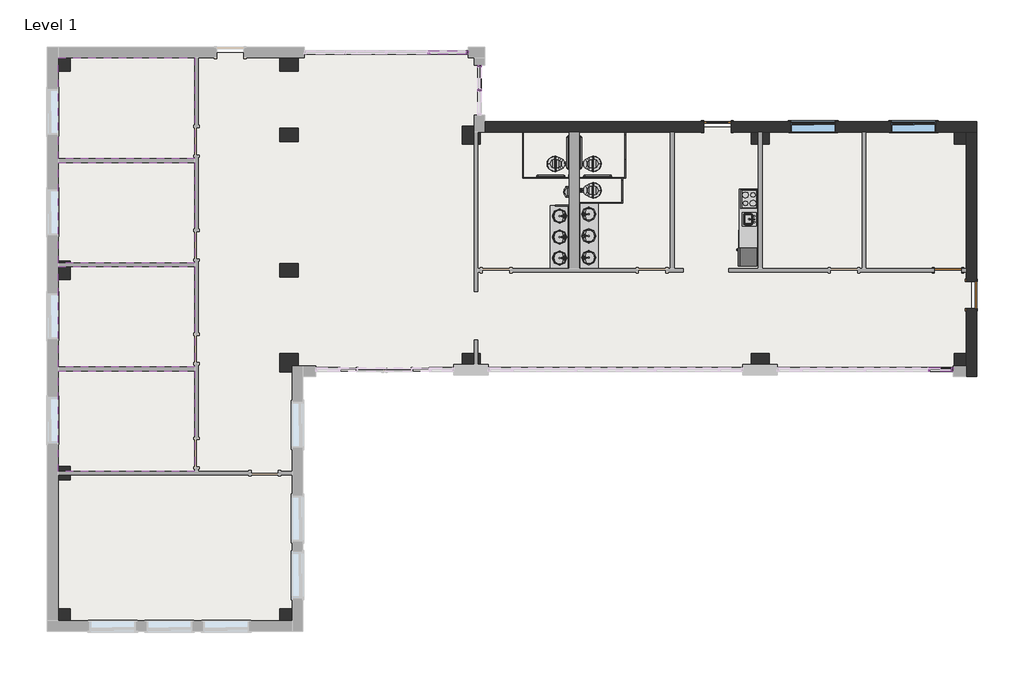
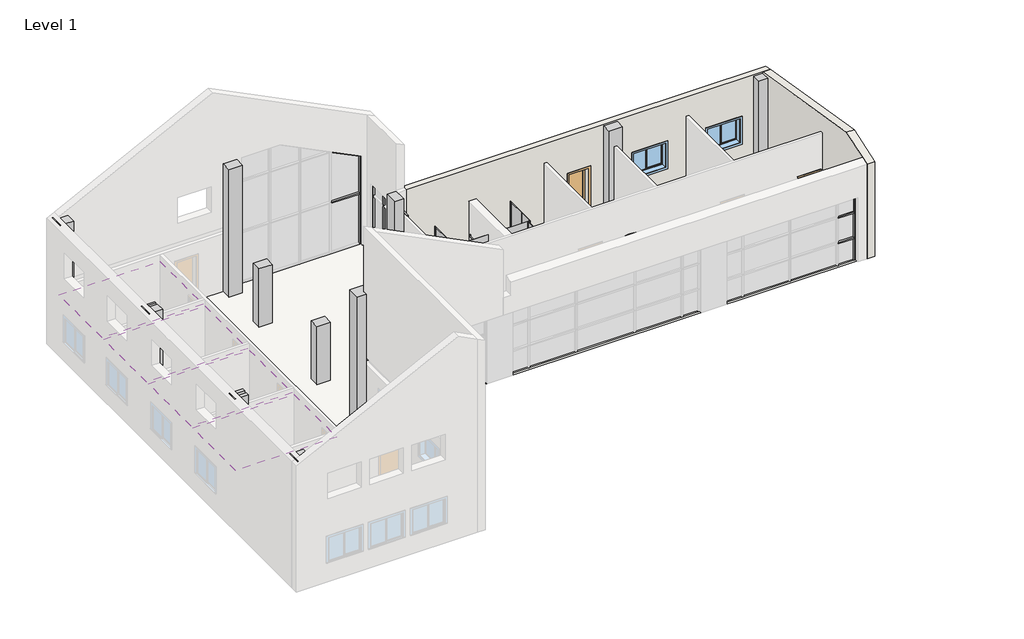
# One storey, part 4 of 4: 15 columns, 15 members, 13 proxies, 11 flow terminals, 4 coverings, 3 doors, 3 furniture elements, 2 walls, 3 other elements.
"""IFC4 building model written with IfcOpenShell, lengths in millimetres."""

from ifc_helpers import new_model, si_unit, frame, origin, origin_with_axes, place, context, project, spatial, polyline, outline, extrude, faceted_brep, transform, mapped, element, save
from components import specialty_equipment_fe47f8b8, specialty_equipment_a66543ee, specialty_equipment_0732ba0f, proxy_75c98dfb, proxy_14d97774, proxy_deb97b80, proxy_a6faaae8, proxy_45b28599, grab_bar_3d_grab_bar_3d_00f4341b, grab_bar_3d_grab_bar_3d_a3ed3e83, kitchenette_medium_kitchenette_medium_844211aa, proxy_c523a7b7, door_cc5399a4, door_88503111, door_14e9a3b2, flow_terminal_871c2e40, flow_terminal_5184717d, flow_terminal_4f17df5f, flow_terminal_f7b7a87d, urinal_wall_3d_urinal_wall_3d_b67806af, furniture_c6510c7c, furniture_b8c66f15, furniture_0f6f437d, member_f0fea5a5, member_ee409385, member_3a0a7659, member_58fbc06e, member_a43dcf29, member_c17f1be2, member_c4de40ee, member_75074519, member_22632d59, member_4eaf5059, member_21124f0b, member_e196a3dc, member_338de68b, window_8313e728

model = new_model("IFC4")

# Units and contexts
model_context = context("Model", 3, world=origin())
ifc_project = project(units=[si_unit("LENGTHUNIT", "METRE", prefix="MILLI")], contexts=[model_context])

# Site, building, storey
site = spatial("IfcSite", under=ifc_project)
building = spatial("IfcBuilding", under=site)
storey = spatial("IfcBuildingStorey", under=building, Name="Level 1", Elevation=0.0)

# Proxies
placement = place(None, origin())
specialty_equipment_shape = specialty_equipment_fe47f8b8(model_context)
element("IfcBuildingElementProxy", 1, Name="Dispencer-Toilet Paper-2D : Dispencer-Toilet Paper-2D", ObjectType="Dispencer-Toilet Paper-2D : Dispencer-Toilet Paper-2D", at=placement, inside=storey, context=model_context, shape_type="MappedRepresentation", body=[
    mapped(specialty_equipment_shape, transform((3856.5733448, 6606.3605424, 0.0), x_axis=(0.0, -1.0, 0.0), y_axis=(1.0, 0.0, 0.0), z_axis=(0.0, 0.0, 1.0))),
])
specialty_equipment_2_shape = specialty_equipment_a66543ee(model_context)
element("IfcBuildingElementProxy", 2, Name="Dispencer-Toilet Paper-2D : Dispencer-Toilet Paper-2D", ObjectType="Dispencer-Toilet Paper-2D : Dispencer-Toilet Paper-2D", at=placement, inside=storey, context=model_context, shape_type="MappedRepresentation", body=[
    mapped(specialty_equipment_2_shape, transform((3513.6733448, 6606.3605424, 0.0), x_axis=(0.0, -1.0, 0.0), y_axis=(1.0, 0.0, 0.0), z_axis=(0.0, 0.0, 1.0))),
])
element("IfcBuildingElementProxy", 3, Name="Dispencer-Toilet Paper-2D : Dispencer-Toilet Paper-2D", ObjectType="Dispencer-Toilet Paper-2D : Dispencer-Toilet Paper-2D", at=placement, inside=storey, context=model_context, shape_type="MappedRepresentation", body=[
    mapped(specialty_equipment_2_shape, transform((3856.5733448, 6580.9605424, 0.0), x_axis=(0.0, 1.0, 0.0), y_axis=(-1.0, 0.0, 0.0), z_axis=(0.0, 0.0, 1.0))),
])
specialty_equipment_3_shape = specialty_equipment_0732ba0f(model_context)
element("IfcBuildingElementProxy", 4, Name="Urinal Screen-3D w Urinal : 36\" O.C.", ObjectType="Urinal Screen-3D w Urinal : 36\" O.C.", at=placement, inside=storey, context=model_context, shape_type="MappedRepresentation", body=[
    mapped(specialty_equipment_3_shape, transform((3685.1233448, 5666.5605424, 0.0), x_axis=(0.0, 1.0, 0.0), y_axis=(-1.0, 0.0, 0.0), z_axis=(0.0, 0.0, 1.0))),
])
proxy_shape = proxy_75c98dfb(model_context)
element("IfcBuildingElementProxy", 5, Name="Toilet Stall-3D w Toilet : 32\" x 56\" Clear", ObjectType="Toilet Stall-3D w Toilet : 32\" x 56\" Clear", at=placement, inside=storey, context=model_context, shape_type="MappedRepresentation", body=[
    mapped(proxy_shape, transform((3685.1233448, 5769.6573886, 0.0), x_axis=(0.0, 1.0, 0.0), y_axis=(-1.0, 0.0, 0.0), z_axis=(0.0, 0.0, 1.0))),
])
proxy_2_shape = proxy_14d97774(model_context)
element("IfcBuildingElementProxy", 6, Name="Toilet Stall-Accessible-Front-3D w Toilet : 60\" x 60\" Clear", ObjectType="Toilet Stall-Accessible-Front-3D w Toilet : 60\" x 60\" Clear", at=placement, inside=storey, context=model_context, shape_type="MappedRepresentation", body=[
    mapped(proxy_2_shape, transform((3685.1233448, 6658.6573886, 0.0), x_axis=(0.0, 1.0, 0.0), y_axis=(-1.0, 0.0, 0.0), z_axis=(0.0, 0.0, 1.0))),
])
proxy_3_shape = proxy_deb97b80(model_context)
element("IfcBuildingElementProxy", 7, Name="Toilet Stall-Accessible-Front-3D w Toilet : 60\" x 60\" Clear", ObjectType="Toilet Stall-Accessible-Front-3D w Toilet : 60\" x 60\" Clear", at=placement, inside=storey, context=model_context, shape_type="MappedRepresentation", body=[
    mapped(proxy_3_shape, transform((3685.1233448, 6658.6573886, 0.0), x_axis=(0.0, 1.0, 0.0), y_axis=(-1.0, 0.0, 0.0), z_axis=(0.0, 0.0, 1.0))),
])
proxy_4_shape = proxy_a6faaae8(model_context)
element("IfcBuildingElementProxy", 8, Name="Cook Top-4 Unit2 : 22\" x 20\"", ObjectType="Cook Top-4 Unit2 : 22\" x 20\"", at=placement, inside=storey, context=model_context, shape_type="MappedRepresentation", body=[
    mapped(proxy_4_shape, transform((9542.9983448, 5882.4605424, 0.0), x_axis=(0.0, -1.0, 0.0), y_axis=(1.0, 0.0, 0.0), z_axis=(0.0, 0.0, 1.0))),
])
proxy_5_shape = proxy_45b28599(model_context)
element("IfcBuildingElementProxy", 9, Name="Dishwasher : 24\" x 24\" x 34\"", ObjectType="Dishwasher : 24\" x 24\" x 34\"", at=placement, inside=storey, context=model_context, shape_type="MappedRepresentation", body=[
    mapped(proxy_5_shape, transform((9251.14878, 4931.2780109, 0.0), x_axis=(0.0, -1.0, 0.0), y_axis=(1.0, 0.0, 0.0), z_axis=(0.0, 0.0, 1.0))),
])
grab_bar_3d_grab_bar_3d_shape = grab_bar_3d_grab_bar_3d_00f4341b(model_context)
element("IfcBuildingElementProxy", 10, Name="Grab Bar-3D : Grab Bar-3D", ObjectType="Grab Bar-3D : Grab Bar-3D", at=placement, inside=storey, context=model_context, shape_type="MappedRepresentation", body=[
    mapped(grab_bar_3d_grab_bar_3d_shape, transform((3513.6733448, 6606.3605424, 0.0), x_axis=(1.0, 0.0, 0.0), y_axis=(0.0, 1.0, 0.0), z_axis=(0.0, 0.0, 1.0))),
])
grab_bar_3d_grab_bar_3d_2_shape = grab_bar_3d_grab_bar_3d_a3ed3e83(model_context)
element("IfcBuildingElementProxy", 11, Name="Grab Bar-3D : Grab Bar-3D", ObjectType="Grab Bar-3D : Grab Bar-3D", at=placement, inside=storey, context=model_context, shape_type="MappedRepresentation", body=[
    mapped(grab_bar_3d_grab_bar_3d_2_shape, transform((3856.5733448, 6606.3605424, 0.0), x_axis=(-1.0, 0.0, 0.0), y_axis=(0.0, -1.0, 0.0), z_axis=(0.0, 0.0, 1.0))),
])
kitchenette_medium_kitchenette_medium_shape = kitchenette_medium_kitchenette_medium_844211aa(model_context)
element("IfcBuildingElementProxy", 12, Name="Kitchenette - Medium : Kitchenette - Medium", ObjectType="Kitchenette - Medium : Kitchenette - Medium", at=placement, inside=storey, context=model_context, shape_type="MappedRepresentation", body=[
    mapped(kitchenette_medium_kitchenette_medium_shape, transform((9847.7983448, 5558.2982474, 0.0), x_axis=(0.0, -1.0, 0.0), y_axis=(1.0, 0.0, 0.0), z_axis=(0.0, 0.0, 1.0))),
])
proxy_6_shape = proxy_c523a7b7(model_context)
element("IfcBuildingElementProxy", 13, Name="Refrigerator : 24\" x 25\" LH", ObjectType="Refrigerator : 24\" x 25\" LH", at=placement, inside=storey, context=model_context, shape_type="MappedRepresentation", body=[
    mapped(proxy_6_shape, transform((9497.3493733, 3945.7105424, 0.0), x_axis=(0.0, -1.0, 0.0), y_axis=(1.0, 0.0, 0.0), z_axis=(0.0, 0.0, 1.0))),
])

# Columns
element("IfcColumn", 14, ObjectType="Rectangular Column : 18\" x 24\"", at=placement, inside=storey, context=model_context, shape_type="SweptSolid", body=[
    extrude(outline(polyline([(-3066.2769576, 6100.0), (-3066.2769576, 0.0), (-3232.9644576, 0.0), (-3232.9644576, 2755.2), (-3356.7894576, 2755.2), (-3356.7894576, 0.0), (-3523.4769576, 0.0), (-3523.4769576, 6100.0), (-3356.7894576, 6100.0), (-3356.7894576, 3060.0), (-3232.9644576, 3060.0), (-3232.9644576, 6100.0), (-3066.2769576, 6100.0)])), frame((-13583.7016552, 0.0, 0.0), z_axis=(1.0, 0.0, 0.0), x_axis=(0.0, 1.0, 0.0)), (0.0, 0.0, 1.0), 406.4),
    extrude(outline(polyline([(6100.0, -13748.8016552), (6100.0, -13786.9016552), (6080.95, -13786.9016552), (6100.0, -13748.8016552)])), frame((0.0, -3523.4769576, 0.0), z_axis=(0.0, 1.0, 0.0), x_axis=(0.0, 0.0, 1.0)), (0.0, 0.0, 1.0), 457.2),
])
element("IfcColumn", 15, ObjectType="Rectangular Column : 18\" x 24\"", at=placement, inside=storey, context=model_context, shape_type="SweptSolid", body=[
    extrude(outline(polyline([(-5550.9516552, 3725.0480424), (-5550.9516552, 3267.8480424), (-6160.5516552, 3267.8480424), (-6160.5516552, 3725.0480424), (-5550.9516552, 3725.0480424)])), origin_with_axes(), (0.0, 0.0, 1.0), 2782.4),
])
element("IfcColumn", 16, ObjectType="Rectangular Column : 18\" x 24\"", at=placement, inside=storey, context=model_context, shape_type="SweptSolid", body=[
    extrude(outline(polyline([(-5550.9516552, 8257.3605424), (-5550.9516552, 7800.1605424), (-6160.5516552, 7800.1605424), (-6160.5516552, 8257.3605424), (-5550.9516552, 8257.3605424)])), origin_with_axes(), (0.0, 0.0, 1.0), 2782.4),
])
element("IfcColumn", 17, ObjectType="Rectangular Column : 24\" x 24\"", at=placement, inside=storey, context=model_context, shape_type="Brep", body=[
    faceted_brep([(-13583.7016552, 10162.3605424, 6100.0), (-13177.3016552, 10162.3605424, 6100.0), (-13177.3016552, 10614.7980424, 6100.0), (-13583.7016552, 10614.7980424, 6100.0), (-13177.3016552, 10162.3605424, 0.0), (-13583.7016552, 10162.3605424, 0.0), (-13583.7016552, 10614.7980424, 0.0), (-13177.3016552, 10614.7980424, 0.0), (-13583.7016552, 10614.7980424, 3060.0), (-13583.7016552, 10614.7980424, 2755.2)], [[[0, 1, 2, 3]], [[4, 5, 6, 7]], [[1, 4, 7, 2]], [[5, 0, 3, 8, 9, 6]], [[3, 2, 7, 6, 9, 8]], [[4, 1, 0, 5]]]),
    faceted_brep([(-13786.9016552, 10162.3605424, 6100.0), (-13786.9016552, 10771.9605424, 6100.0), (-13786.9016552, 10771.9605424, 6080.95), (-13786.9016552, 10162.3605424, 6080.95), (-13748.8016552, 10162.3605424, 6100.0), (-13748.8016552, 10771.9605424, 6100.0)], [[[0, 1, 2, 3]], [[4, 0, 3]], [[5, 4, 3, 2]], [[1, 0, 4, 5]], [[1, 5, 2]]]),
])
element("IfcColumn", 18, ObjectType="Rectangular Column : 24\" x 24\"", at=placement, inside=storey, context=model_context, shape_type="SweptSolid", body=[
    extrude(outline(polyline([(3729.8105424, 6100.0), (3801.2480424, 6100.0), (3801.2480424, 0.0), (3743.3042924, 0.0), (3743.3042924, 2755.2), (3619.4792924, 2755.2), (3619.4792924, 0.0), (3191.6480424, 0.0), (3191.6480424, 6100.0), (3605.9855424, 6100.0), (3605.9855424, 3060.0), (3729.8105424, 3060.0), (3729.8105424, 6100.0)])), frame((-13583.7016552, 0.0, 0.0), z_axis=(1.0, 0.0, 0.0), x_axis=(0.0, 1.0, 0.0)), (0.0, 0.0, 1.0), 406.4),
    extrude(outline(polyline([(6100.0, -13748.8016552), (6100.0, -13786.9016552), (6080.95, -13786.9016552), (6100.0, -13748.8016552)])), frame((0.0, 3191.6480424, 0.0), z_axis=(0.0, 1.0, 0.0), x_axis=(0.0, 0.0, 1.0)), (0.0, 0.0, 1.0), 609.6),
])
element("IfcColumn", 19, ObjectType="Rectangular Column : 24\" x 24\"", at=placement, inside=storey, context=model_context, shape_type="Brep", body=[
    faceted_brep([(-13177.3016552, -8233.5894576, 6100.0), (-13177.3016552, -7827.1894576, 6100.0), (-13583.7016552, -7827.1894576, 6100.0), (-13583.7016552, -8233.5894576, 6100.0), (-13177.3016552, -7827.1894576, 0.0), (-13177.3016552, -8233.5894576, 0.0), (-13583.7016552, -8233.5894576, 0.0), (-13583.7016552, -7827.1894576, 0.0), (-13583.7016552, -8233.5894576, 3060.0), (-13583.7016552, -8233.5894576, 2755.2)], [[[0, 1, 2, 3]], [[4, 5, 6, 7]], [[1, 4, 7, 2]], [[4, 1, 0, 5]], [[5, 0, 3, 8, 9, 6]], [[3, 2, 7, 6, 9, 8]]]),
    faceted_brep([(-13786.9016552, -8436.7894576, 6100.0), (-13786.9016552, -7827.1894576, 6100.0), (-13786.9016552, -7827.1894576, 6080.95), (-13786.9016552, -8233.5894576, 6080.95), (-13786.9016552, -8436.7894576, 6080.95), (-13748.8016552, -8436.7894576, 6100.0), (-13748.8016552, -8233.5894576, 6100.0), (-13748.8016552, -7827.1894576, 6100.0)], [[[0, 1, 2, 3, 4]], [[5, 0, 4]], [[6, 5, 4, 3]], [[1, 0, 5, 6, 7]], [[7, 6, 3, 2]], [[1, 7, 2]]]),
])
element("IfcColumn", 20, ObjectType="Rectangular Column : 24\" x 24\"", at=placement, inside=storey, context=model_context, shape_type="Brep", body=[
    faceted_brep([(-5754.1516552, -7827.1894576, 6100.0), (-6160.5516552, -7827.1894576, 6100.0), (-6160.5516552, -8233.5894576, 6100.0), (-5754.1516552, -8233.5894576, 6100.0), (-6160.5516552, -7827.1894576, 0.0), (-5754.1516552, -7827.1894576, 0.0), (-5754.1516552, -8233.5894576, 0.0), (-6160.5516552, -8233.5894576, 0.0), (-5754.1516552, -8233.5894576, 3060.0), (-5754.1516552, -8233.5894576, 2755.2)], [[[0, 1, 2, 3]], [[4, 5, 6, 7]], [[4, 1, 0, 5]], [[1, 4, 7, 2]], [[5, 0, 3, 8, 9, 6]], [[3, 2, 7, 6, 9, 8]]]),
])
element("IfcColumn", 21, ObjectType="Rectangular Column : 24\" x 24\"", at=placement, inside=storey, context=model_context, shape_type="Brep", body=[
    faceted_brep([(-5550.9516552, 707.2105424, 6100.0), (-6160.5516552, 707.2105424, 6100.0), (-6160.5516552, 97.6105424, 6100.0), (-5754.1516552, 97.6105424, 6100.0), (-5754.1516552, 300.8105424, 6100.0), (-5550.9516552, 300.8105424, 6100.0), (-6160.5516552, 97.6105424, 0.0), (-6160.5516552, 707.2105424, 0.0), (-5550.9516552, 707.2105424, 0.0), (-5550.9516552, 300.8105424, 0.0), (-5754.1516552, 300.8105424, 0.0), (-5754.1516552, 97.6105424, 0.0), (-5754.1516552, 300.8105424, 2755.2), (-5754.1516552, 300.8105424, 3060.0)], [[[0, 1, 2, 3, 4, 5]], [[6, 7, 8, 9, 10, 11]], [[1, 0, 8, 7]], [[2, 1, 7, 6]], [[2, 6, 11, 3]], [[8, 0, 5, 9]], [[10, 12, 13, 4, 3, 11]], [[4, 13, 12, 10, 9, 5]]]),
])
element("IfcColumn", 22, ObjectType="Rectangular Column : 24\" x 24\"", at=placement, inside=storey, context=model_context, shape_type="Brep", body=[
    faceted_brep([(-64.5516552, 8333.5605424, 3900.0), (-64.5516552, 7723.9605424, 3900.0), (341.8483448, 7723.9605424, 3900.0), (341.8483448, 8130.3605424, 3900.0), (341.8483448, 8333.5605424, 3900.0), (-64.5516552, 7723.9605424, 0.0), (-64.5516552, 8333.5605424, 0.0), (341.8483448, 8333.5605424, 0.0), (341.8483448, 8130.3605424, 0.0), (341.8483448, 7723.9605424, 0.0), (341.8483448, 7723.9605424, 3060.0), (341.8483448, 8130.3605424, 3060.0)], [[[0, 1, 2, 3, 4]], [[5, 6, 7, 8, 9]], [[6, 0, 4, 7]], [[1, 0, 6, 5]], [[1, 5, 9, 10, 2]], [[9, 8, 11, 10]], [[3, 2, 10, 11]], [[4, 3, 11, 8, 7]]]),
    faceted_brep([(545.0483448, 7723.9605424, 3060.0), (545.0483448, 7723.9605424, 0.0), (545.0483448, 8130.3605424, 0.0), (545.0483448, 8130.3605424, 3060.0), (465.6733448, 8130.3605424, 0.0), (465.6733448, 7723.9605424, 0.0), (465.6733448, 7723.9605424, 3060.0), (465.6733448, 8130.3605424, 3060.0)], [[[0, 1, 2, 3]], [[4, 5, 6, 7]], [[6, 0, 3, 7]], [[5, 1, 0, 6]], [[2, 4, 7, 3]], [[1, 5, 4, 2]]]),
])
element("IfcColumn", 23, ObjectType="Rectangular Column : 24\" x 24\"", at=placement, inside=storey, context=model_context, shape_type="SweptSolid", body=[
    extrude(outline(polyline([(3900.0, 10214.5108448), (3900.0, 9604.9108448), (0.0, 9604.9108448), (0.0, 9847.7983448), (3060.0, 9847.7983448), (3060.0, 9971.6233448), (0.0, 9971.6233448), (0.0, 10214.5108448), (3900.0, 10214.5108448)])), frame((0.0, 7723.9605424, 0.0), z_axis=(0.0, 1.0, 0.0), x_axis=(0.0, 0.0, 1.0)), (0.0, 0.0, 1.0), 406.4),
])
element("IfcColumn", 24, ObjectType="Rectangular Column : 24\" x 24\"", at=placement, inside=storey, context=model_context, shape_type="SweptSolid", body=[
    extrude(outline(polyline([(16394.6483448, 7723.9605424), (16394.6483448, 8130.3605424), (16801.0483448, 8130.3605424), (16801.0483448, 7723.9605424), (16394.6483448, 7723.9605424)])), origin_with_axes(), (0.0, 0.0, 1.0), 3900.0),
])
element("IfcColumn", 25, ObjectType="Rectangular Column : 24\" x 24\"", at=placement, inside=storey, context=model_context, shape_type="SweptSolid", body=[
    extrude(outline(polyline([(16394.6483448, 300.8105424), (16394.6483448, 707.2105424), (16801.0483448, 707.2105424), (16801.0483448, 300.8105424), (16394.6483448, 300.8105424)])), origin_with_axes(), (0.0, 0.0, 1.0), 3900.0),
])
element("IfcColumn", 26, ObjectType="Rectangular Column : 24\" x 24\"", at=placement, inside=storey, context=model_context, shape_type="SweptSolid", body=[
    extrude(outline(polyline([(-5550.9516552, 10162.3605424), (-6160.5516552, 10162.3605424), (-6160.5516552, 10614.7980424), (-5550.9516552, 10614.7980424), (-5550.9516552, 10162.3605424)])), origin_with_axes(), (0.0, 0.0, 1.0), 6100.0),
])
element("IfcColumn", 27, ObjectType="Rectangular Column : 24\" x 24\"", at=placement, inside=storey, context=model_context, shape_type="SweptSolid", body=[
    extrude(outline(polyline([(9604.9108448, 707.2105424), (10214.5108448, 707.2105424), (10214.5108448, 351.6105424), (9604.9108448, 351.6105424), (9604.9108448, 707.2105424)])), origin_with_axes(), (0.0, 0.0, 1.0), 3060.0),
])
element("IfcColumn", 28, ObjectType="Rectangular Column : 24\" x 24\"", at=placement, inside=storey, context=model_context, shape_type="SweptSolid", body=[
    extrude(outline(polyline([(465.6733448, 707.2105424), (545.0483448, 707.2105424), (545.0483448, 351.6105424), (465.6733448, 351.6105424), (465.6733448, 707.2105424)])), origin_with_axes(), (0.0, 0.0, 1.0), 3060.0),
    extrude(outline(polyline([(-64.5516552, 707.2105424), (341.8483448, 707.2105424), (341.8483448, 351.6105424), (-64.5516552, 351.6105424), (-64.5516552, 707.2105424)])), origin_with_axes(), (0.0, 0.0, 1.0), 3060.0),
])

# Coverings
element("IfcCovering", 29, ObjectType="2' x 4' ACT System", at=placement, inside=storey, context=model_context, shape_type="SweptSolid", body=[
    extrude(outline(polyline([(-9011.7016552, -3232.9644576), (-13583.7016552, -3232.9644576), (-13583.7016552, 131.3449174), (-9011.7016552, 131.3449174), (-9011.7016552, -3232.9644576)])), frame((0.0, 0.0, 2438.4), z_axis=(0.0, 0.0, 1.0), x_axis=(1.0, 0.0, 0.0)), (0.0, 0.0, 1.0), 57.15),
])
element("IfcCovering", 30, ObjectType="2' x 4' ACT System", at=placement, inside=storey, context=model_context, shape_type="SweptSolid", body=[
    extrude(outline(polyline([(-9011.7016552, 255.1699174), (-13583.7016552, 255.1699174), (-13583.7016552, 3619.4792924), (-9011.7016552, 3619.4792924), (-9011.7016552, 255.1699174)])), frame((0.0, 0.0, 2438.4), z_axis=(0.0, 0.0, 1.0), x_axis=(1.0, 0.0, 0.0)), (0.0, 0.0, 1.0), 57.15),
])
element("IfcCovering", 31, ObjectType="2' x 4' ACT System", at=placement, inside=storey, context=model_context, shape_type="SweptSolid", body=[
    extrude(outline(polyline([(-9011.7016552, 3743.3042924), (-13583.7016552, 3743.3042924), (-13583.7016552, 7107.6136674), (-9011.7016552, 7107.6136674), (-9011.7016552, 3743.3042924)])), frame((0.0, 0.0, 2438.4), z_axis=(0.0, 0.0, 1.0), x_axis=(1.0, 0.0, 0.0)), (0.0, 0.0, 1.0), 57.15),
])
element("IfcCovering", 32, ObjectType="2' x 4' ACT System", at=placement, inside=storey, context=model_context, shape_type="SweptSolid", body=[
    extrude(outline(polyline([(-9011.7016552, 7231.4386674), (-13583.7016552, 7231.4386674), (-13583.7016552, 10614.7980424), (-9011.7016552, 10614.7980424), (-9011.7016552, 7231.4386674)])), frame((0.0, 0.0, 2438.4), z_axis=(0.0, 0.0, 1.0), x_axis=(1.0, 0.0, 0.0)), (0.0, 0.0, 1.0), 57.15),
])

# Doors
door_shape = door_cc5399a4(model_context)
element("IfcDoor", 33, ObjectType="Single-Flush : 36\" x 84\"", at=placement, inside=storey, context=model_context, shape_type="MappedRepresentation", body=[
    mapped(door_shape, transform((16977.2608448, 2672.5355424, 0.0), x_axis=(0.0, 1.0, 0.0), y_axis=(-1.0, 0.0, 0.0), z_axis=(0.0, 0.0, 1.0))),
])
door_2_shape = door_88503111(model_context)
element("IfcDoor", 34, ObjectType="Single-Flush : 36\" x 84\"", at=placement, inside=storey, context=model_context, shape_type="MappedRepresentation", body=[
    mapped(door_2_shape, transform((16191.4483448, 3496.4480424, 0.0), x_axis=(1.0, 0.0, 0.0), y_axis=(0.0, 1.0, 0.0), z_axis=(0.0, 0.0, 1.0))),
])
door_3_shape = door_14e9a3b2(model_context)
element("IfcDoor", 35, ObjectType="Single-Glass 1 : 36\" x 84\"", at=placement, inside=storey, context=model_context, shape_type="MappedRepresentation", body=[
    mapped(door_3_shape, transform((8476.1983448, 8306.5730424, 0.0), x_axis=(1.0, 0.0, 0.0), y_axis=(0.0, 1.0, 0.0), z_axis=(0.0, 0.0, 1.0))),
])

# Flow terminals
flow_terminal_shape = flow_terminal_871c2e40(model_context)
element("IfcFlowTerminal", 36, ObjectType="Sink Kitchen-Island : 18\" x 18\"", at=placement, inside=storey, context=model_context, shape_type="MappedRepresentation", body=[
    mapped(flow_terminal_shape, transform((9540.6529437, 5225.049783, -14.4), x_axis=(0.0, -1.0, 0.0), y_axis=(1.0, 0.0, 0.0), z_axis=(0.0, 0.0, 1.0))),
])
flow_terminal_2_shape = flow_terminal_5184717d(model_context)
element("IfcFlowTerminal", 37, ObjectType="Sink Vanity-Round : 19\" x 19\"", at=placement, inside=storey, context=model_context, shape_type="MappedRepresentation", body=[
    mapped(flow_terminal_2_shape, transform((4259.2410633, 5282.0421352, 76.2), x_axis=(0.0, 1.0, 0.0), y_axis=(-1.0, 0.0, 0.0), z_axis=(0.0, 0.0, 1.0))),
])
element("IfcFlowTerminal", 38, ObjectType="Sink Vanity-Round : 19\" x 19\"", at=placement, inside=storey, context=model_context, shape_type="MappedRepresentation", body=[
    mapped(flow_terminal_2_shape, transform((4259.2410633, 3825.7754686, 76.2), x_axis=(0.0, 1.0, 0.0), y_axis=(-1.0, 0.0, 0.0), z_axis=(0.0, 0.0, 1.0))),
])
element("IfcFlowTerminal", 39, ObjectType="Sink Vanity-Round : 19\" x 19\"", at=placement, inside=storey, context=model_context, shape_type="MappedRepresentation", body=[
    mapped(flow_terminal_2_shape, transform((4259.2410633, 4553.9088019, 76.2), x_axis=(0.0, 1.0, 0.0), y_axis=(-1.0, 0.0, 0.0), z_axis=(0.0, 0.0, 1.0))),
])
element("IfcFlowTerminal", 40, ObjectType="Sink Vanity-Round : 19\" x 19\"", at=placement, inside=storey, context=model_context, shape_type="MappedRepresentation", body=[
    mapped(flow_terminal_2_shape, transform((3111.0056263, 4006.3789497, 76.2), x_axis=(0.0, -1.0, 0.0), y_axis=(1.0, 0.0, 0.0), z_axis=(0.0, 0.0, 1.0))),
])
element("IfcFlowTerminal", 41, ObjectType="Sink Vanity-Round : 19\" x 19\"", at=placement, inside=storey, context=model_context, shape_type="MappedRepresentation", body=[
    mapped(flow_terminal_2_shape, transform((3111.0056263, 5411.8456163, 76.2), x_axis=(0.0, -1.0, 0.0), y_axis=(1.0, 0.0, 0.0), z_axis=(0.0, 0.0, 1.0))),
])
element("IfcFlowTerminal", 42, ObjectType="Sink Vanity-Round : 19\" x 19\"", at=placement, inside=storey, context=model_context, shape_type="MappedRepresentation", body=[
    mapped(flow_terminal_2_shape, transform((3111.0056263, 4709.112283, 76.2), x_axis=(0.0, -1.0, 0.0), y_axis=(1.0, 0.0, 0.0), z_axis=(0.0, 0.0, 1.0))),
])
flow_terminal_3_shape = flow_terminal_4f17df5f(model_context)
element("IfcFlowTerminal", 43, ObjectType="Toilet-Commercial-Wall-3D1 : 15\" Seat Height 2", at=placement, inside=storey, context=model_context, shape_type="MappedRepresentation", body=[
    mapped(flow_terminal_3_shape, transform((3685.1233448, 6658.6573886, 0.0), x_axis=(0.0, 1.0, 0.0), y_axis=(-1.0, 0.0, 0.0), z_axis=(0.0, 0.0, 1.0))),
])
flow_terminal_4_shape = flow_terminal_f7b7a87d(model_context)
element("IfcFlowTerminal", 44, ObjectType="Toilet-Commercial-Wall-3D1 : 15\" Seat Height 2", at=placement, inside=storey, context=model_context, shape_type="MappedRepresentation", body=[
    mapped(flow_terminal_4_shape, transform((3685.1233448, 6658.6573886, 0.0), x_axis=(0.0, 1.0, 0.0), y_axis=(-1.0, 0.0, 0.0), z_axis=(0.0, 0.0, 1.0))),
])
element("IfcFlowTerminal", 45, ObjectType="Toilet-Commercial-Wall-3D1 : 15\" Seat Height 2", at=placement, inside=storey, context=model_context, shape_type="MappedRepresentation", body=[
    mapped(flow_terminal_4_shape, transform((3685.1233448, 5769.6573886, 0.0), x_axis=(0.0, 1.0, 0.0), y_axis=(-1.0, 0.0, 0.0), z_axis=(0.0, 0.0, 1.0))),
])
urinal_wall_3d_urinal_wall_3d_shape = urinal_wall_3d_urinal_wall_3d_b67806af(model_context)
element("IfcFlowTerminal", 46, ObjectType="Urinal-Wall-3D : Urinal-Wall-3D", at=placement, inside=storey, context=model_context, shape_type="MappedRepresentation", body=[
    mapped(urinal_wall_3d_urinal_wall_3d_shape, transform((3685.1233448, 6232.8351423, 0.0), x_axis=(0.0, 1.0, 0.0), y_axis=(-1.0, 0.0, 0.0), z_axis=(0.0, 0.0, 1.0))),
])

# Furniture
furniture_shape = furniture_c6510c7c(model_context)
element("IfcFurniture", 47, ObjectType="Counter Top w Sink Hole : 24\" Depth", at=placement, inside=storey, context=model_context, shape_type="MappedRepresentation", body=[
    mapped(furniture_shape, transform((9847.7983448, 5024.8982474, -14.4), x_axis=(0.0, -1.0, 0.0), y_axis=(1.0, 0.0, 0.0), z_axis=(0.0, 0.0, 1.0))),
])
furniture_2_shape = furniture_b8c66f15(model_context)
element("IfcFurniture", 48, ObjectType="Counter Top w Sinks-3D : 96\"", at=placement, inside=storey, context=model_context, shape_type="MappedRepresentation", body=[
    mapped(furniture_2_shape, transform((3685.1233448, 4626.6502386, 0.0), x_axis=(0.0, -1.0, 0.0), y_axis=(1.0, 0.0, 0.0), z_axis=(0.0, 0.0, 1.0))),
])
furniture_3_shape = furniture_0f6f437d(model_context)
element("IfcFurniture", 49, ObjectType="Counter Top w Sinks-3D : 96\"", at=placement, inside=storey, context=model_context, shape_type="MappedRepresentation", body=[
    mapped(furniture_3_shape, transform((3685.1233448, 4674.4708462, 0.0), x_axis=(0.0, 1.0, 0.0), y_axis=(-1.0, 0.0, 0.0), z_axis=(0.0, 0.0, 1.0))),
])

# Members
member_shape = member_f0fea5a5(model_context)
element("IfcMember", 50, ObjectType="Rectangular Mullion : 2.5\" x 5\" Rectangular", at=placement, inside=storey, context=model_context, shape_type="MappedRepresentation", body=[
    mapped(member_shape, transform((518.0608448, 9525.7730424, 0.0), x_axis=(0.0, -1.0, 0.0), y_axis=(-1.0, 0.0, 0.0), z_axis=(0.0, 0.0, -1.0))),
])
member_2_shape = member_ee409385(model_context)
element("IfcMember", 51, ObjectType="Rectangular Mullion : 2.5\" x 5\" Rectangular", at=placement, inside=storey, context=model_context, shape_type="MappedRepresentation", body=[
    mapped(member_2_shape, transform((138.6483448, 10791.0105424, 0.0), x_axis=(1.0, 0.0, 0.0), y_axis=(0.0, -1.0, 0.0), z_axis=(0.0, 0.0, -1.0))),
])
element("IfcMember", 52, ObjectType="Rectangular Mullion : 2.5\" x 5\" Rectangular", at=placement, inside=storey, context=model_context, shape_type="MappedRepresentation", body=[
    mapped(member_2_shape, transform((518.0608448, 10363.9730424, 2438.4), x_axis=(0.0, 1.0, 0.0), y_axis=(-1.0, 0.0, 0.0), z_axis=(0.0, 0.0, 1.0))),
])
member_3_shape = member_3a0a7659(model_context)
element("IfcMember", 53, ObjectType="Rectangular Mullion : 2.5\" x 5\" Rectangular", at=placement, inside=storey, context=model_context, shape_type="MappedRepresentation", body=[
    mapped(member_3_shape, transform((518.0608448, 10300.4730424, 0.0), x_axis=(0.0, 0.0, -1.0), y_axis=(-1.0, 0.0, 0.0), z_axis=(0.0, 1.0, 0.0))),
])
member_4_shape = member_58fbc06e(model_context)
element("IfcMember", 54, ObjectType="Rectangular Mullion : 2.5\" x 5\" Rectangular", at=placement, inside=storey, context=model_context, shape_type="MappedRepresentation", body=[
    mapped(member_4_shape, transform((75.1483448, 10791.0105424, 2438.4), x_axis=(0.0, 0.0, 1.0), y_axis=(0.0, -1.0, 0.0), z_axis=(1.0, 0.0, 0.0))),
])
member_5_shape = member_a43dcf29(model_context)
element("IfcMember", 55, ObjectType="Rectangular Mullion : 2.5\" x 5\" Rectangular", at=placement, inside=storey, context=model_context, shape_type="MappedRepresentation", body=[
    mapped(member_5_shape, transform((16304.1608448, 175.3980424, 2286.0), x_axis=(0.0, 0.0, 1.0), y_axis=(0.0, -1.0, 0.0), z_axis=(1.0, 0.0, 0.0))),
])
element("IfcMember", 56, ObjectType="Rectangular Mullion : 2.5\" x 5\" Rectangular", at=placement, inside=storey, context=model_context, shape_type="MappedRepresentation", body=[
    mapped(member_5_shape, transform((16304.1608448, 175.3980424, 1066.8), x_axis=(0.0, 0.0, 1.0), y_axis=(0.0, -1.0, 0.0), z_axis=(1.0, 0.0, 0.0))),
])
member_6_shape = member_c17f1be2(model_context)
element("IfcMember", 57, ObjectType="Rectangular Mullion : 2.5\" x 5\" Rectangular", at=placement, inside=storey, context=model_context, shape_type="MappedRepresentation", body=[
    mapped(member_6_shape, transform((16367.6608448, 175.3980424, 3060.0), x_axis=(0.0, 0.0, 1.0), y_axis=(0.0, -1.0, 0.0), z_axis=(1.0, 0.0, 0.0))),
])
member_7_shape = member_c4de40ee(model_context)
element("IfcMember", 58, ObjectType="Rectangular Mullion : 2.5\" x 5\" Rectangular", at=placement, inside=storey, context=model_context, shape_type="MappedRepresentation", body=[
    mapped(member_7_shape, transform((16367.6608448, 175.3980424, 0.0), x_axis=(1.0, 0.0, 0.0), y_axis=(0.0, -1.0, 0.0), z_axis=(0.0, 0.0, -1.0))),
])
member_8_shape = member_75074519(model_context)
element("IfcMember", 59, ObjectType="Rectangular Mullion : 2.5\" x 5\" Rectangular", at=placement, inside=storey, context=model_context, shape_type="MappedRepresentation", body=[
    mapped(member_8_shape, transform((16367.6608448, 175.3980424, 1066.8), x_axis=(1.0, 0.0, 0.0), y_axis=(0.0, -1.0, 0.0), z_axis=(0.0, 0.0, -1.0))),
])
member_9_shape = member_22632d59(model_context)
element("IfcMember", 60, ObjectType="Rectangular Mullion : 2.5\" x 5\" Rectangular", at=placement, inside=storey, context=model_context, shape_type="MappedRepresentation", body=[
    mapped(member_9_shape, transform((138.6483448, 10791.0105424, 4247.4894414), x_axis=(0.44721359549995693, 0.0, 0.8944271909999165), y_axis=(0.0, -1.0, 0.0), z_axis=(0.8944271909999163, 0.0, -0.4472135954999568))),
])
member_10_shape = member_4eaf5059(model_context)
element("IfcMember", 61, ObjectType="Rectangular Mullion : 2.5\" x 5\" Rectangular", at=placement, inside=storey, context=model_context, shape_type="MappedRepresentation", body=[
    mapped(member_10_shape, transform((138.6483448, 10791.0105424, 2438.4), x_axis=(1.0, 0.0, 0.0), y_axis=(0.0, -1.0, 0.0), z_axis=(0.0, 0.0, -1.0))),
])
member_11_shape = member_21124f0b(model_context)
element("IfcMember", 62, ObjectType="Rectangular Mullion : 2.5\" x 5\" Rectangular", at=placement, inside=storey, context=model_context, shape_type="MappedRepresentation", body=[
    mapped(member_11_shape, transform((518.0608448, 9525.7730424, 2438.4), x_axis=(0.0, -1.0, 0.0), y_axis=(-1.0, 0.0, 0.0), z_axis=(0.0, 0.0, -1.0))),
])
member_12_shape = member_e196a3dc(model_context)
element("IfcMember", 63, ObjectType="Rectangular Mullion : 2.5\" x 5\" Rectangular", at=placement, inside=storey, context=model_context, shape_type="MappedRepresentation", body=[
    mapped(member_12_shape, transform((518.0608448, 10363.9730424, 3060.0), x_axis=(0.0, 1.0, 0.0), y_axis=(-1.0, 0.0, 0.0), z_axis=(0.0, 0.0, 1.0))),
])
member_13_shape = member_338de68b(model_context)
element("IfcMember", 64, ObjectType="Rectangular Mullion : 2.5\" x 5\" Rectangular", at=placement, inside=storey, context=model_context, shape_type="MappedRepresentation", body=[
    mapped(member_13_shape, transform((16367.6608448, 175.3980424, 2286.0), x_axis=(1.0, 0.0, 0.0), y_axis=(0.0, -1.0, 0.0), z_axis=(0.0, 0.0, -1.0))),
])

# Slab
element("IfcSlab", 65, ObjectType="4\" Concrete Slab", at=placement, inside=storey, context=model_context, shape_type="Brep", body=[
    faceted_brep([(506.9483448, 10779.8980424, -101.6), (506.9483448, 8295.4605424, -101.6), (16966.1483448, 8295.4605424, -101.6), (16966.1483448, 135.7105424, -101.6), (518.0608448, 135.7105424, -101.6), (-5589.0516552, 135.7105424, -101.6), (-5589.0516552, -8398.6894576, -101.6), (-13748.8016552, -8398.6894576, -101.6), (-13748.8016552, 10616.3855424, -101.6), (-13748.8016552, 10779.8980424, -101.6), (389.4733448, 10779.8980424, -101.6), (506.9483448, 10779.8980424, 0.0), (389.4733448, 10779.8980424, 0.0), (-13748.8016552, 10779.8980424, 0.0), (-13748.8016552, 10616.3855424, 0.0), (-13748.8016552, -8398.6894576, 0.0), (-5589.0516552, -8398.6894576, 0.0), (-5589.0516552, 135.7105424, 0.0), (518.0608448, 135.7105424, 0.0), (16966.1483448, 135.7105424, 0.0), (16966.1483448, 8295.4605424, 0.0), (506.9483448, 8295.4605424, 0.0)], [[[0, 1, 2, 3, 4, 5, 6, 7, 8, 9, 10]], [[11, 12, 13, 14, 15, 16, 17, 18, 19, 20, 21]], [[1, 0, 11, 21]], [[2, 1, 21, 20]], [[3, 2, 20, 19]], [[4, 3, 19, 18]], [[5, 4, 18, 17]], [[6, 5, 17, 16]], [[7, 6, 16, 15]], [[9, 8, 7, 15, 14, 13]], [[0, 10, 9, 13, 12, 11]]]),
])

# Walls
element("IfcWall", 66, ObjectType="Exterior - Brick on Mtl. Stud", at=placement, inside=storey, context=model_context, shape_type="Brep", body=[
    faceted_brep([(8933.3983448, 8130.3605424, 2133.6), (8933.3983448, 8130.3605424, 0.0), (9604.9108448, 8130.3605424, 0.0), (9847.7983448, 8130.3605424, 0.0), (9971.6233448, 8130.3605424, 0.0), (10214.5108448, 8130.3605424, 0.0), (13324.4233448, 8130.3605424, 0.0), (13448.2483448, 8130.3605424, 0.0), (16394.6483448, 8130.3605424, 0.0), (16801.0483448, 8130.3605424, 0.0), (17153.4733448, 8130.3605424, 0.0), (17153.4733448, 8130.3605424, 3958.7375), (16801.0483448, 8130.3605424, 3958.7375), (694.2733448, 8130.3605424, 3958.7375), (694.2733448, 8130.3605424, 0.0), (3513.6733448, 8130.3605424, 0.0), (3856.5733448, 8130.3605424, 0.0), (6904.5733448, 8130.3605424, 0.0), (7028.3983448, 8130.3605424, 0.0), (8018.9983448, 8130.3605424, 0.0), (8018.9983448, 8130.3605424, 2133.6), (12444.9483448, 8130.3605424, 2133.6), (12444.9483448, 8130.3605424, 914.4), (10920.9483448, 8130.3605424, 914.4), (10920.9483448, 8130.3605424, 2133.6), (15804.0983448, 8130.3605424, 2133.6), (15804.0983448, 8130.3605424, 914.4), (14280.0983448, 8130.3605424, 914.4), (14280.0983448, 8130.3605424, 2133.6), (17153.4733448, 8482.7855424, 0.0), (8933.3983448, 8482.7855424, 0.0), (8933.3983448, 8482.7855424, 2133.6), (8018.9983448, 8482.7855424, 2133.6), (8018.9983448, 8482.7855424, 0.0), (694.2733448, 8482.7855424, 0.0), (694.2733448, 8482.7855424, 3900.0), (17153.4733448, 8482.7855424, 3900.0), (12444.9483448, 8482.7855424, 2133.6), (10920.9483448, 8482.7855424, 2133.6), (10920.9483448, 8482.7855424, 914.4), (12444.9483448, 8482.7855424, 914.4), (15804.0983448, 8482.7855424, 2133.6), (14280.0983448, 8482.7855424, 2133.6), (14280.0983448, 8482.7855424, 914.4), (15804.0983448, 8482.7855424, 914.4)], [[[0, 1, 2, 3, 4, 5, 6, 7, 8, 9, 10, 11, 12, 13, 14, 15, 16, 17, 18, 19, 20], [21, 22, 23, 24], [25, 26, 27, 28]], [[29, 30, 31, 32, 33, 34, 35, 36], [37, 38, 39, 40], [41, 42, 43, 44]], [[10, 9, 8, 7, 6, 5, 4, 3, 2, 1, 30, 29]], [[19, 18, 17, 16, 15, 14, 34, 33]], [[31, 30, 1, 0]], [[32, 31, 0, 20]], [[33, 32, 20, 19]], [[22, 21, 37, 40]], [[23, 22, 40, 39]], [[24, 23, 39, 38]], [[21, 24, 38, 37]], [[26, 25, 41, 44]], [[27, 26, 44, 43]], [[28, 27, 43, 42]], [[25, 28, 42, 41]], [[13, 12, 11, 36, 35]], [[11, 10, 29, 36]], [[13, 35, 34, 14]]]),
])
element("IfcWall", 67, ObjectType="Exterior - Brick on Mtl. Stud", at=placement, inside=storey, context=model_context, shape_type="Brep", body=[
    faceted_brep([(16801.0483448, 8130.3605424, 0.0), (16801.0483448, 7723.9605424, 0.0), (16801.0483448, 3558.3605424, 0.0), (16801.0483448, 3434.5355424, 0.0), (16801.0483448, 3129.7355424, 0.0), (16801.0483448, 3129.7355424, 2133.6), (16801.0483448, 2215.3355424, 2133.6), (16801.0483448, 2215.3355424, 0.0), (16801.0483448, 707.2105424, 0.0), (16801.0483448, 300.8105424, 0.0), (16801.0483448, -51.6144576, 0.0), (16801.0483448, -51.6144576, 4509.6), (16801.0483448, 300.8105424, 4627.075), (16801.0483448, 1573.9855424, 5051.4666667), (16801.0483448, 8130.3605424, 3958.7375), (16801.0483448, 8130.3605424, 3900.0), (17153.4733448, 3129.7355424, 2133.6), (17153.4733448, 3129.7355424, 0.0), (17153.4733448, 8130.3605424, 0.0), (17153.4733448, 8130.3605424, 3958.7375), (17153.4733448, 1573.9855424, 5051.4666667), (17153.4733448, -51.6144576, 4509.6), (17153.4733448, -51.6144576, 0.0), (17153.4733448, 2215.3355424, 0.0), (17153.4733448, 2215.3355424, 2133.6)], [[[0, 1, 2, 3, 4, 5, 6, 7, 8, 9, 10, 11, 12, 13, 14, 15]], [[16, 17, 18, 19, 20, 21, 22, 23, 24]], [[23, 22, 10, 9, 8, 7]], [[18, 17, 4, 3, 2, 1, 0]], [[5, 4, 17, 16]], [[6, 5, 16, 24]], [[7, 6, 24, 23]], [[14, 13, 20, 19]], [[13, 12, 11, 21, 20]], [[11, 10, 22, 21]], [[0, 15, 14, 19, 18]]]),
])

# Windows
window_shape = window_8313e728(model_context)
element("IfcWindow", 68, ObjectType="Slider with Trim : 60\" x 48\"", at=placement, inside=storey, context=model_context, shape_type="MappedRepresentation", body=[
    mapped(window_shape, transform((11682.9483448, 8306.5730424, 0.0), x_axis=(1.0, 0.0, 0.0), y_axis=(0.0, 1.0, 0.0), z_axis=(0.0, 0.0, 1.0))),
])
element("IfcWindow", 69, ObjectType="Slider with Trim : 60\" x 48\"", at=placement, inside=storey, context=model_context, shape_type="MappedRepresentation", body=[
    mapped(window_shape, transform((15042.0983448, 8306.5730424, 0.0), x_axis=(1.0, 0.0, 0.0), y_axis=(0.0, 1.0, 0.0), z_axis=(0.0, 0.0, 1.0))),
])

save(model, "model.ifc")
